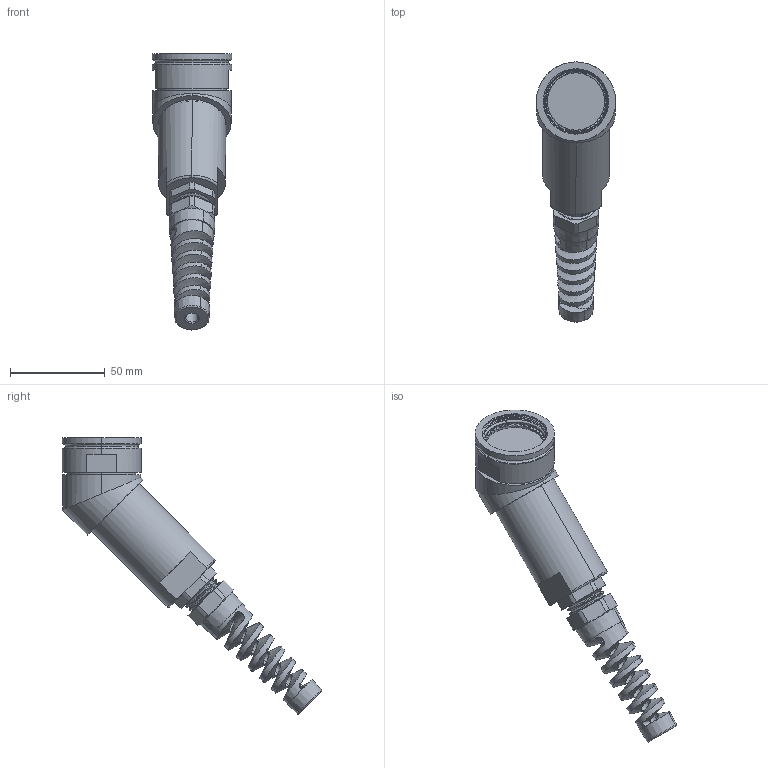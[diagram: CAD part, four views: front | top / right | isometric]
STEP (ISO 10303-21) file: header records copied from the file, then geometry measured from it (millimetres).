
FILE_DESCRIPTION (( 'STEP AP214' ), '1' );
FILE_NAME ('Q38SHELL-45X-23-XXXX-GB.STEP', '2025-09-25T21:02:43', ( '' ), ( '' ), 'SwSTEP 2.0', 'SolidWorks 2024', '' );
FILE_SCHEMA (( 'AUTOMOTIVE_DESIGN' ));
Length unit declared in the file: millimetre
Products named in the file (1): Q38SHELL-45X-23-XXXX-GB
Bounding box: 41.78 x 137.01 x 145.57 mm (x, y, z)
Volume: 121809.7 mm3; surface area: 27452.5 mm2
Topology: 2 solids, 2 shells, 332 faces, 1038 edges, 725 vertices
Faces by surface type: plane 201, cylinder 73, cone 38, torus 13, bspline 7
Entity records: 16706 total; most frequent: CARTESIAN_POINT 8090, ORIENTED_EDGE 2076, DIRECTION 1577, EDGE_CURVE 1038, VERTEX_POINT 725, AXIS2_PLACEMENT_3D 641, EDGE_LOOP 351, FACE_OUTER_BOUND 332
